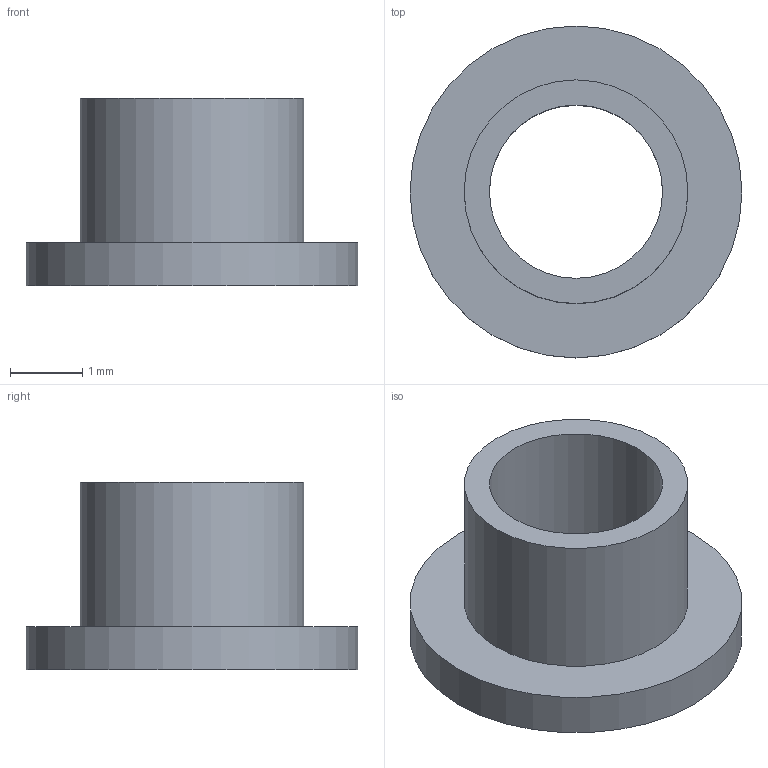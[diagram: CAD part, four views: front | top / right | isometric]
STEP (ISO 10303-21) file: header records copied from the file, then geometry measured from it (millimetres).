
FILE_DESCRIPTION(('STEP AP203'), '1');
FILE_NAME('8732303413', '', ('UNSPECIFIED'), ('UNSPECIFIED'), 'C3D Converter', 'C3D Toolkit', '');
FILE_SCHEMA(('CONFIG_CONTROL_DESIGN'));
Length unit declared in the file: millimetre
Products named in the file (1): 8732303413
Bounding box: 4.6 x 4.6 x 2.6 mm (x, y, z)
Volume: 13.3 mm3; surface area: 71.9 mm2
Topology: 1 solids, 1 shells, 6 faces, 9 edges, 6 vertices
Faces by surface type: plane 3, cylinder 3
Full cylindrical faces by diameter (mm): 2.4 x1, 3.1 x1, 4.6 x1
Entity records: 216 total; most frequent: DIRECTION 26, CARTESIAN_POINT 19, AXIS2_PLACEMENT_3D 13, EDGE_LOOP 12, ORIENTED_EDGE 12, COLOUR_RGB 7, FILL_AREA_STYLE_COLOUR 7, FILL_AREA_STYLE 7
